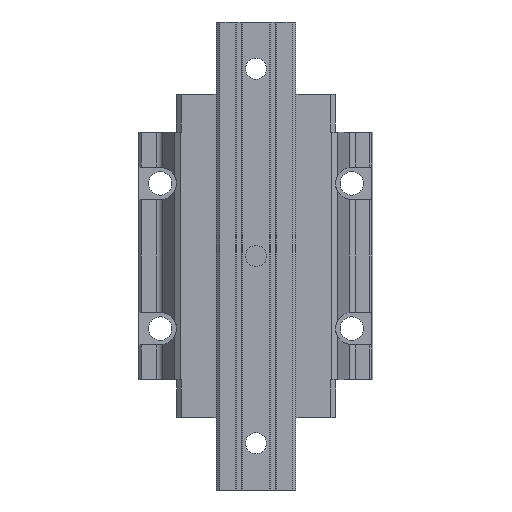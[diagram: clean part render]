
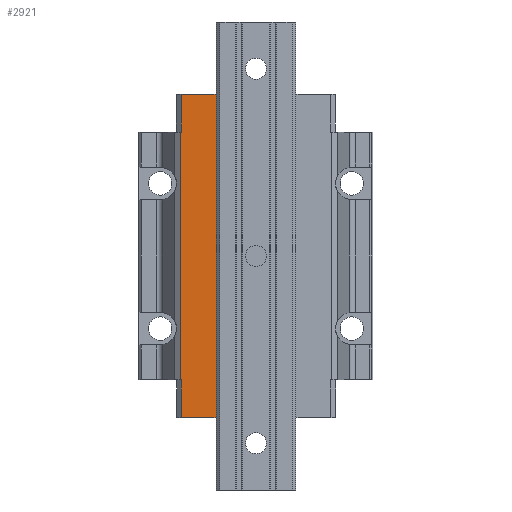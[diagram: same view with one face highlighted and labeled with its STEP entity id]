
A CAD part, front view. The second image highlights one B-rep face of the part: STEP entity #2921.
In plain terms, the highlighted planar face has unit normal (0, -1, 0).
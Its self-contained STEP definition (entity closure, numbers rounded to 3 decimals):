
#71=DIRECTION('',(1.,0.,0.));
#72=VECTOR('',#71,0.458);
#73=CARTESIAN_POINT('',(-32.366,-21.5,-52.9));
#74=LINE('',#73,#72);
#297=DIRECTION('',(0.,0.,-1.));
#298=VECTOR('',#297,16.2);
#299=CARTESIAN_POINT('',(-31.908,-21.5,-52.9));
#300=LINE('',#299,#298);
#301=DIRECTION('',(0.,0.,-1.));
#302=VECTOR('',#301,138.2);
#303=CARTESIAN_POINT('',(-16.641,-21.5,69.1));
#304=LINE('',#303,#302);
#305=DIRECTION('',(-1.,0.,0.));
#306=VECTOR('',#305,15.266);
#307=CARTESIAN_POINT('',(-16.641,-21.5,-69.1));
#308=LINE('',#307,#306);
#309=DIRECTION('',(0.,0.,1.));
#310=VECTOR('',#309,16.2);
#311=CARTESIAN_POINT('',(-32.,-21.5,52.9));
#312=LINE('',#311,#310);
#313=DIRECTION('',(1.,0.,0.));
#314=VECTOR('',#313,15.359);
#315=CARTESIAN_POINT('',(-32.,-21.5,69.1));
#316=LINE('',#315,#314);
#801=DIRECTION('',(-1.,0.,0.));
#802=VECTOR('',#801,0.366);
#803=CARTESIAN_POINT('',(-32.,-21.5,52.9));
#804=LINE('',#803,#802);
#1133=DIRECTION('',(0.,0.,-1.));
#1134=VECTOR('',#1133,105.8);
#1135=CARTESIAN_POINT('',(-32.366,-21.5,52.9));
#1136=LINE('',#1135,#1134);
#1943=CARTESIAN_POINT('',(-32.366,-21.5,-52.9));
#1944=VERTEX_POINT('',#1943);
#1945=CARTESIAN_POINT('',(-32.366,-21.5,52.9));
#1946=VERTEX_POINT('',#1945);
#2153=CARTESIAN_POINT('',(-32.,-21.5,69.1));
#2155=VERTEX_POINT('',#2153);
#2157=CARTESIAN_POINT('',(-16.641,-21.5,69.1));
#2158=VERTEX_POINT('',#2157);
#2270=CARTESIAN_POINT('',(-32.,-21.5,52.9));
#2272=VERTEX_POINT('',#2270);
#2363=CARTESIAN_POINT('',(-16.641,-21.5,-69.1));
#2364=VERTEX_POINT('',#2363);
#2365=CARTESIAN_POINT('',(-31.908,-21.5,-69.1));
#2366=VERTEX_POINT('',#2365);
#2433=CARTESIAN_POINT('',(-31.908,-21.5,-52.9));
#2435=VERTEX_POINT('',#2433);
#2900=CARTESIAN_POINT('',(-32.366,-21.5,-52.9));
#2901=DIRECTION('',(0.,-1.,0.));
#2902=DIRECTION('',(1.,0.,0.));
#2903=AXIS2_PLACEMENT_3D('',#2900,#2901,#2902);
#2904=PLANE('',#2903);
#2906=ORIENTED_EDGE('',*,*,#2905,.T.);
#2908=ORIENTED_EDGE('',*,*,#2907,.T.);
#2909=ORIENTED_EDGE('',*,*,#2892,.F.);
#2910=ORIENTED_EDGE('',*,*,#2532,.F.);
#2912=ORIENTED_EDGE('',*,*,#2911,.F.);
#2914=ORIENTED_EDGE('',*,*,#2913,.F.);
#2916=ORIENTED_EDGE('',*,*,#2915,.T.);
#2918=ORIENTED_EDGE('',*,*,#2917,.T.);
#2919=EDGE_LOOP('',(#2906,#2908,#2909,#2910,#2912,#2914,#2916,#2918));
#2920=FACE_OUTER_BOUND('',#2919,.F.);
#2921=ADVANCED_FACE('',(#2920),#2904,.T.);
#2532=EDGE_CURVE('',#1944,#2435,#74,.T.);
#2892=EDGE_CURVE('',#2435,#2366,#300,.T.);
#2905=EDGE_CURVE('',#2158,#2364,#304,.T.);
#2907=EDGE_CURVE('',#2364,#2366,#308,.T.);
#2911=EDGE_CURVE('',#1946,#1944,#1136,.T.);
#2913=EDGE_CURVE('',#2272,#1946,#804,.T.);
#2915=EDGE_CURVE('',#2272,#2155,#312,.T.);
#2917=EDGE_CURVE('',#2155,#2158,#316,.T.);
